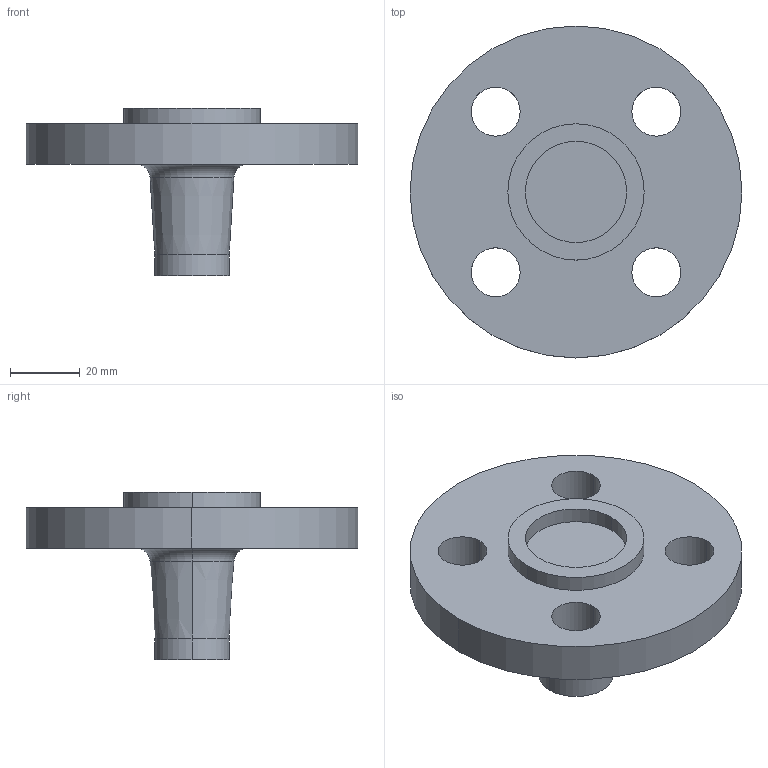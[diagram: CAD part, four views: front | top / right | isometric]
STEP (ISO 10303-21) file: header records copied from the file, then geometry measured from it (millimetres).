
FILE_DESCRIPTION (( 'STEP AP214' ), '1' );
FILE_NAME ('PN40 DN15 Type 21(ii) - Type C Face.STEP', '2018-12-29T14:26:02', ( '' ), ( '' ), 'SwSTEP 2.0', 'SolidWorks 2019', '' );
FILE_SCHEMA (( 'AUTOMOTIVE_DESIGN' ));
Length unit declared in the file: millimetre
Products named in the file (1): PN40 DN15 Type 21(ii) - Type C Face
Bounding box: 95 x 95 x 48 mm (x, y, z)
Volume: 89925.5 mm3; surface area: 21413.7 mm2
Topology: 1 solids, 1 shells, 27 faces, 60 edges, 38 vertices
Faces by surface type: cylinder 16, plane 5, torus 4, cone 2
Entity records: 818 total; most frequent: DIRECTION 158, CARTESIAN_POINT 126, ORIENTED_EDGE 120, AXIS2_PLACEMENT_3D 70, EDGE_CURVE 60, CIRCLE 42, EDGE_LOOP 38, VERTEX_POINT 38
